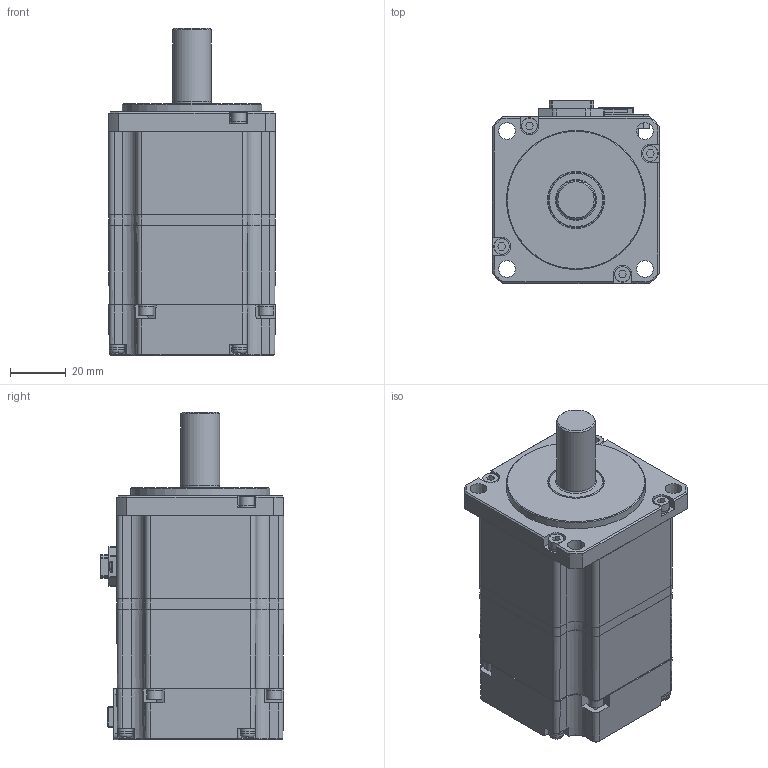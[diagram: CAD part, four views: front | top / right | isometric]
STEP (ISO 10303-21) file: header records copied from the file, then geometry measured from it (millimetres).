
FILE_DESCRIPTION (( 'STEP AP214' ), '1' );
FILE_NAME ('EM06GA004G01_Out Line(APM-EB01AM3N2).STEP', '2022-11-10T03:03:53', ( '' ), ( '' ), 'SwSTEP 2.0', 'SolidWorks 2021', '' );
FILE_SCHEMA (( 'AUTOMOTIVE_DESIGN' ));
Length unit declared in the file: millimetre
Products named in the file (1): EM06GA004G01_Out Line(APM-EB01AM3N2)
Bounding box: 60 x 65.9 x 117.5 mm (x, y, z)
Volume: 290259.9 mm3; surface area: 66749.9 mm2
Topology: 34 solids, 34 shells, 1555 faces, 3907 edges, 2487 vertices
Faces by surface type: plane 1117, cylinder 236, cone 139, torus 31, bspline 18, sphere 14
Full cylindrical faces by diameter (mm): 1.6 x10, 2 x2, 2.1 x2, 2.5 x16, 3 x16, 3.1 x8, 3.5 x4, 5.4 x8, 5.5 x8, 5.6 x8, 14 x1, 19.8 x1, 20.5 x1, 50 x1
Entity records: 63157 total; most frequent: CARTESIAN_POINT 9356, ORIENTED_EDGE 7424, DIRECTION 7193, EDGE_CURVE 3712, LINE 2753, VECTOR 2753, VERTEX_POINT 2436, AXIS2_PLACEMENT_3D 2220
